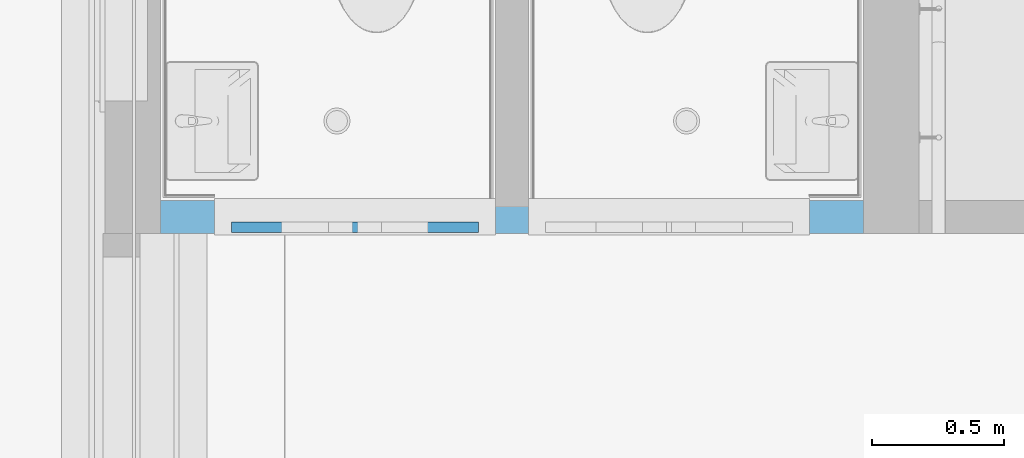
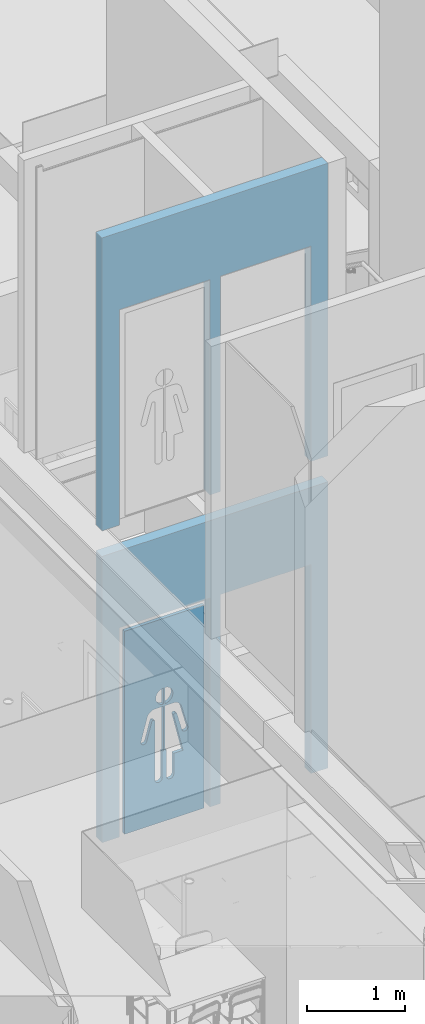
# One storey, part 55 of 347: 1 building element part, 4 openings, 1 element without a shape of its own, plus 1 element that does not belong to this part.
"""IFC2X3 building model written with IfcOpenShell, lengths in millimetres."""

from ifc_helpers import new_model, entity, si_unit, converted_unit, derived_unit, money_unit, direction, frame, origin_with_axes, place, context, subcontext, project, spatial, faceted_brep, source, transform, mapped, material, type_object, element, fill, aggregate, save


model = new_model("IFC2X3")

# Units and contexts
model_context = context("Model", 3, precision=0.01, world=origin_with_axes(), true_north=direction((0.0, 1.0)))
plan_context = context("Plan", 3, precision=0.01, world=origin_with_axes(), true_north=direction((0.0, 1.0)))
body_context = subcontext(model_context, "Body", "Model", "MODEL_VIEW")
ifc_project = project(units=[si_unit("LENGTHUNIT", "METRE", prefix="MILLI"), si_unit("AREAUNIT", "SQUARE_METRE"), si_unit("VOLUMEUNIT", "CUBIC_METRE"), converted_unit("PLANEANGLEUNIT", "DEGREE", entity("IfcPlaneAngleMeasure", 0.0174532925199), si_unit("PLANEANGLEUNIT", "RADIAN"), dimensions=[0, 0, 0, 0, 0, 0, 0]), money_unit("EUR"), converted_unit("TIMEUNIT", "Year", entity("IfcTimeMeasure", 31556926.0), si_unit("TIMEUNIT", "SECOND"), dimensions=[0, 0, 1, 0, 0, 0, 0]), si_unit("MASSUNIT", "GRAM", prefix="KILO"), si_unit("THERMODYNAMICTEMPERATUREUNIT", "DEGREE_CELSIUS"), si_unit("LUMINOUSINTENSITYUNIT", "LUMEN"), si_unit("ENERGYUNIT", "JOULE", prefix="MEGA"), derived_unit("THERMALCONDUCTANCEUNIT", [(si_unit("POWERUNIT", "WATT"), 1), (si_unit("LENGTHUNIT", "METRE"), -1), (si_unit("THERMODYNAMICTEMPERATUREUNIT", "KELVIN"), -1)]), derived_unit("SPECIFICHEATCAPACITYUNIT", [(si_unit("ENERGYUNIT", "JOULE"), 1), (si_unit("MASSUNIT", "GRAM", prefix="KILO"), -1), (si_unit("THERMODYNAMICTEMPERATUREUNIT", "KELVIN"), -1)]), derived_unit("MASSDENSITYUNIT", [(si_unit("MASSUNIT", "GRAM", prefix="KILO"), 1), (si_unit("VOLUMEUNIT", "CUBIC_METRE"), -1)])], contexts=[model_context, plan_context])

# Site, building, storey
site_placement = place(None, origin_with_axes())
site = spatial("IfcSite", under=ifc_project, at=site_placement, Name="Site", CompositionType="ELEMENT")
building_placement = place(site_placement, origin_with_axes())
building = spatial("IfcBuilding", under=site, at=building_placement, Name="Naam gebouw", CompositionType="ELEMENT")
storey_placement = place(building_placement, origin_with_axes())
storey = spatial("IfcBuildingStorey", under=building, at=storey_placement, Name="begane grond", CompositionType="ELEMENT", Elevation=0.0)

# Wall, openings, door, building element part
ifc_material_1 = material(Name="ALG - LICHTE SCHEIDINGSWAND")
wall_type = type_object("IfcWallType", Name="ALG LSW 125 125", PredefinedType="NOTDEFINED")
wall_placement = place(storey_placement, frame((35705.0, 30074.9999277, 0.0), z_axis=(0.0, 0.0, 1.0), x_axis=(1.0, 0.0, 0.0)))
wall = element("IfcWall", 1, at=wall_placement, inside=storey, type_object=wall_type, material=ifc_material_1, Name="22_GF 125 ECO DGS/2.75.2A", context=body_context, shape_type="Brep", body=[
    faceted_brep([(1392.5, 125.0, 2600.0), (1392.5, 125.0, 0.0), (1267.5, 125.0, 0.0), (1267.5, 125.0, 2600.0), (203.5, 125.0, 2600.0), (203.5, 125.0, 0.0), (0.0, 125.0, 0.0), (0.0, 125.0, 3560.0), (2660.0, 125.0, 3560.0), (2660.0, 125.0, 0.0), (2456.5, 125.0, 0.0), (2456.5, 125.0, 2600.0), (1392.5, 0.0, 2600.0), (1392.5, 0.0, 0.0), (1267.5, 0.0, 0.0), (1267.5, 0.0, 2600.0), (203.5, 0.0, 2600.0), (203.5, 0.0, 0.0), (0.0, 0.0, 0.0), (0.0, 0.0, 3560.0), (2660.0, 0.0, 3560.0), (2660.0, 0.0, 0.0), (2456.5, 0.0, 0.0), (2456.5, 0.0, 2600.0)], [[[0, 1, 2, 3, 4, 5, 6, 7, 8, 9, 10, 11]], [[1, 0, 12, 13]], [[1, 13, 14, 2]], [[2, 14, 15, 3]], [[3, 15, 16, 4]], [[4, 16, 17, 5]], [[17, 18, 6, 5]], [[7, 6, 18, 19]], [[8, 7, 19, 20]], [[20, 21, 9, 8]], [[22, 10, 9, 21]], [[11, 10, 22, 23]], [[0, 11, 23, 12]], [[23, 22, 21, 20, 19, 18, 17, 16, 15, 14, 13, 12]]]),
    faceted_brep([(203.5, 125.0, 6560.0), (203.5, 125.0, 3960.0), (203.5, 125.0, 3880.0), (0.0, 125.0, 3880.0), (0.0, 125.0, 7520.0), (2660.0, 125.0, 7520.0), (2660.0, 125.0, 3880.0), (2456.5, 125.0, 3880.0), (2456.5, 125.0, 3960.0), (2456.5, 125.0, 6560.0), (1392.5, 125.0, 6560.0), (1392.5, 125.0, 3960.0), (1392.5, 125.0, 3880.0), (1267.5, 125.0, 3880.0), (1267.5, 125.0, 3960.0), (1267.5, 125.0, 6560.0), (203.5, 0.0, 6560.0), (203.5, 0.0, 3960.0), (203.5, 0.0, 3880.0), (0.0, 0.0, 3880.0), (0.0, 0.0, 7520.0), (2660.0, 0.0, 7520.0), (2660.0, 0.0, 3880.0), (2456.5, 0.0, 3880.0), (2456.5, 0.0, 3960.0), (2456.5, 0.0, 6560.0), (1392.5, 0.0, 6560.0), (1392.5, 0.0, 3960.0), (1392.5, 0.0, 3880.0), (1267.5, 0.0, 3880.0), (1267.5, 0.0, 3960.0), (1267.5, 0.0, 6560.0)], [[[0, 1, 2, 3, 4, 5, 6, 7, 8, 9, 10, 11, 12, 13, 14, 15]], [[1, 0, 16, 17]], [[1, 17, 18, 2]], [[18, 19, 3, 2]], [[19, 20, 4, 3]], [[4, 20, 21, 5]], [[6, 5, 21, 22]], [[7, 6, 22, 23]], [[8, 7, 23, 24]], [[8, 24, 25, 9]], [[9, 25, 26, 10]], [[10, 26, 27, 11]], [[27, 28, 12, 11]], [[28, 29, 13, 12]], [[30, 14, 13, 29]], [[15, 14, 30, 31]], [[0, 15, 31, 16]], [[31, 30, 29, 28, 27, 26, 25, 24, 23, 22, 21, 20, 19, 18, 17, 16]]]),
])
opening_1_placement = place(wall_placement, frame((735.5, 0.0, 0.0), z_axis=(0.0, 0.0, 1.0), x_axis=(1.0, 0.0, 0.0)))
opening_1 = element("IfcOpeningElement", 2, at=opening_1_placement, cuts=wall, Name="32_02.05", context=body_context, shape_type="Brep", body=[
    faceted_brep([(-532.0, 125.0, 2600.0), (-532.0, 125.0, 0.0), (-532.0, -257.0, 0.0), (-532.0, -257.0, 2600.0), (532.0, 125.0, 2600.0), (532.0, 125.0, 0.0), (532.0, -257.0, 0.0), (532.0, -257.0, 2600.0)], [[[0, 1, 2, 3]], [[0, 4, 5, 1]], [[1, 5, 6, 2]], [[3, 2, 6, 7]], [[4, 0, 3, 7]], [[5, 4, 7, 6]]]),
])
opening_2_placement = place(wall_placement, frame((1924.5, 0.0, 0.0), z_axis=(0.0, 0.0, 1.0), x_axis=(1.0, 0.0, 0.0)))
element("IfcOpeningElement", 3, at=opening_2_placement, cuts=wall, Name="32_02.05", context=body_context, shape_type="Brep", body=[
    faceted_brep([(-532.0, 125.0, 2600.0), (-532.0, 125.0, 0.0), (-532.0, -257.0, 0.0), (-532.0, -257.0, 2600.0), (532.0, 125.0, 2600.0), (532.0, 125.0, 0.0), (532.0, -257.0, 0.0), (532.0, -257.0, 2600.0)], [[[0, 1, 2, 3]], [[0, 4, 5, 1]], [[1, 5, 6, 2]], [[3, 2, 6, 7]], [[4, 0, 3, 7]], [[5, 4, 7, 6]]]),
])
opening_3_placement = place(wall_placement, frame((1924.5, 0.0, 3960.0), z_axis=(0.0, 0.0, 1.0), x_axis=(1.0, 0.0, 0.0)))
element("IfcOpeningElement", 4, at=opening_3_placement, cuts=wall, Name="32_02.05", context=body_context, shape_type="Brep", body=[
    faceted_brep([(-532.0, -125.0, 0.0), (-532.0, -125.0, 2600.0), (-532.0, 257.0, 2600.0), (-532.0, 257.0, 0.0), (532.0, -125.0, 0.0), (532.0, -125.0, 2600.0), (532.0, 257.0, 2600.0), (532.0, 257.0, 0.0)], [[[0, 1, 2, 3]], [[0, 4, 5, 1]], [[1, 5, 6, 2]], [[3, 2, 6, 7]], [[4, 0, 3, 7]], [[5, 4, 7, 6]]]),
])
opening_4_placement = place(wall_placement, frame((735.5, 0.0, 3960.0), z_axis=(0.0, 0.0, 1.0), x_axis=(1.0, 0.0, 0.0)))
element("IfcOpeningElement", 5, at=opening_4_placement, cuts=wall, Name="32_02.05", context=body_context, shape_type="Brep", body=[
    faceted_brep([(-532.0, -125.0, 0.0), (-532.0, -125.0, 2600.0), (-532.0, 257.0, 2600.0), (-532.0, 257.0, 0.0), (532.0, -125.0, 0.0), (532.0, -125.0, 2600.0), (532.0, 257.0, 2600.0), (532.0, 257.0, 0.0)], [[[0, 1, 2, 3]], [[0, 4, 5, 1]], [[1, 5, 6, 2]], [[3, 2, 6, 7]], [[4, 0, 3, 7]], [[5, 4, 7, 6]]]),
])
door_style = type_object("IfcDoorStyle", Name="D1 25", ConstructionType="NOTDEFINED", OperationType="SINGLE_SWING_RIGHT", ParameterTakesPrecedence=False, Sizeable=False)
door_placement = place(opening_1_placement, frame((532.0, 0.0, 0.0), z_axis=(0.0, 0.0, 1.0), x_axis=(-1.0, 0.0, 0.0)))
door = element("IfcDoor", 6, at=door_placement, inside=storey, type_object=door_style, Name="32_02.05", ObjectType="DOOR", OverallHeight=2600.0, OverallWidth=1064.0)
fill(opening_1, door)
ifc_material_2 = material(Name="Hout C")
shared_shape = source(origin_with_axes(), body_context, "Body", "Brep", [
    faceted_brep([(467.0, -10.0, 2535.0), (467.0, -50.0, 2535.0), (467.0, -50.0, 10.0), (467.0, -10.0, 10.0), (-467.0, -10.0, 2535.0), (-467.0, -50.0, 2535.0), (-467.0, -50.0, 10.0), (-10.0430200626, -50.0, 890.229090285), (-25.1075218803, -50.0, 890.229090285), (-25.1075218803, -50.0, 563.286854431), (-24.6932816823, -50.0, 559.546364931), (-25.1742831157, -50.0, 552.034934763), (-26.9501513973, -50.0, 544.721284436), (-29.9669276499, -50.0, 537.827635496), (-34.1329486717, -50.0, 531.563447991), (-39.3216320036, -50.0, 526.119056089), (-45.3753221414, -50.0, 521.659884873), (-52.1100807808, -50.0, 518.321424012), (-59.3212756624, -50.0, 516.205110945), (-66.7897983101, -50.0, 515.375248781), (-74.2887214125, -50.0, 515.857052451), (-81.5901940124, -50.0, 517.635882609), (-88.4723645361, -50.0, 520.657690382), (-94.7261217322, -50.0, 524.830659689), (-100.161448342, -50.0, 530.027996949), (-104.613194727, -50.0, 536.091783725), (-107.946096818, -50.0, 542.8377749), (-110.058886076, -50.0, 550.06099695), (-110.887366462, -50.0, 557.54197595), (-110.473126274, -50.0, 563.286854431), (-110.473126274, -50.0, 814.780876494), (-219.866038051, -50.0, 814.780876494), (-108.013455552, -50.0, 1292.61952191), (-108.785274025, -50.0, 1296.47224326), (-110.199691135, -50.0, 1299.82482097), (-112.173819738, -50.0, 1302.8804449), (-114.647676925, -50.0, 1305.54627145), (-117.546095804, -50.0, 1307.74130085), (-120.781009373, -50.0, 1309.39883823), (-124.254126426, -50.0, 1310.46852015), (-127.859918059, -50.0, 1310.91784487), (-131.488824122, -50.0, 1310.73315989), (-135.030582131, -50.0, 1309.92007677), (-138.377577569, -50.0, 1308.50330061), (-141.428113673, -50.0, 1306.52587948), (-144.089501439, -50.0, 1304.04789628), (-146.280875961, -50.0, 1301.14464328), (-147.935653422, -50.0, 1297.90433437), (-149.003554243, -50.0, 1294.42542469), (-149.227842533, -50.0, 1292.61952191), (-207.923578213, -50.0, 1073.19870027), (-208.719139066, -50.0, 1070.22315824), (-211.317762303, -50.0, 1064.63924071), (-214.844929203, -50.0, 1059.59215425), (-219.193468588, -50.0, 1055.235252), (-224.231252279, -50.0, 1051.70091623), (-229.805209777, -50.0, 1049.09653598), (-235.745979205, -50.0, 1047.50124399), (-241.873053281, -50.0, 1046.96351241), (-248.000263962, -50.0, 1047.49967995), (-253.941439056, -50.0, 1049.09345542), (-259.516058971, -50.0, 1051.69641276), (-264.554741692, -50.0, 1055.22946244), (-268.904389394, -50.0, 1059.58525451), (-272.432840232, -50.0, 1064.63144045), (-275.032884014, -50.0, 1070.21469446), (-276.625519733, -50.0, 1076.16537218), (-277.162355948, -50.0, 1082.30266527), (-276.62708117, -50.0, 1088.44009521), (-275.831520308, -50.0, 1091.41563724), (-201.58891637, -50.0, 1368.954906), (-199.31480372, -50.0, 1377.45616444), (-191.888136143, -50.0, 1393.40926659), (-181.808681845, -50.0, 1407.82822709), (-169.382699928, -50.0, 1420.27493311), (-154.98774758, -50.0, 1430.37119778), (-139.061208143, -50.0, 1437.81025123), (-122.087001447, -50.0, 1442.36606156), (-104.580882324, -50.0, 1443.51593625), (-10.0430200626, -50.0, 1443.51593625), (-10.0430200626, -50.0, 1669.35630499), (-10.0430200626, -50.0, 1469.16959144), (-18.7854730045, -50.0, 1470.04970729), (-35.6995917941, -50.0, 1474.82448312), (-51.5289965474, -50.0, 1482.46872393), (-65.7927188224, -50.0, 1492.75016333), (-78.0573626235, -50.0, 1505.35640498), (-87.9502729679, -50.0, 1519.90441461), (-95.1708587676, -50.0, 1535.9521583), (-99.4997261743, -50.0, 1553.01203348), (-100.430107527, -50.0, 1569.26294821), (-100.430107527, -50.0, 1578.06409863), (-97.3785895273, -50.0, 1595.39898096), (-91.368272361, -50.0, 1611.93973315), (-82.5817764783, -50.0, 1627.18377283), (-71.2860751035, -50.0, 1640.66791757), (-57.8243824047, -50.0, 1651.98245845), (-42.6057251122, -50.0, 1660.78360886), (-26.0925144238, -50.0, 1666.80395031), (10.0430200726, -50.0, 1669.35630499), (18.7854730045, -50.0, 1668.47618914), (35.6995917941, -50.0, 1663.7014133), (51.5289965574, -50.0, 1656.05717249), (65.7927188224, -50.0, 1645.77573309), (78.0573626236, -50.0, 1633.16949145), (87.9502729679, -50.0, 1618.62148182), (95.1708587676, -50.0, 1602.57373813), (99.4997261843, -50.0, 1585.51386294), (100.430107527, -50.0, 1569.26294821), (100.430107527, -50.0, 1560.4617978), (97.3785895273, -50.0, 1543.12691547), (91.368272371, -50.0, 1526.58616327), (82.5817764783, -50.0, 1511.34212359), (71.2860751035, -50.0, 1497.85797885), (57.8243824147, -50.0, 1486.54343798), (42.6057251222, -50.0, 1477.74228756), (26.0925144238, -50.0, 1471.72194611), (10.0430200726, -50.0, 1469.16959144), (276.62552127, -50.0, 1088.44895872), (277.162357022, -50.0, 1082.31166558), (276.627081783, -50.0, 1076.17423568), (275.035959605, -50.0, 1070.22315174), (272.437335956, -50.0, 1064.63923441), (268.910168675, -50.0, 1059.59214821), (264.561628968, -50.0, 1055.23524628), (259.523845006, -50.0, 1051.70091091), (253.949887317, -50.0, 1049.09653107), (248.009117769, -50.0, 1047.50123953), (241.882043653, -50.0, 1046.96350842), (235.754833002, -50.0, 1047.49967641), (229.813658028, -50.0, 1049.09345233), (224.239038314, -50.0, 1051.6964101), (219.200355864, -50.0, 1055.22946015), (214.850708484, -50.0, 1059.58525256), (211.322258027, -50.0, 1064.63143877), (208.722214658, -50.0, 1070.21469297), (207.923578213, -50.0, 1073.19870026), (149.011836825, -50.0, 1292.61952191), (148.349375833, -50.0, 1295.95494878), (147.047948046, -50.0, 1299.10211348), (145.220702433, -50.0, 1301.97509819), (142.923158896, -50.0, 1304.48660874), (140.225127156, -50.0, 1306.56033414), (137.208585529, -50.0, 1308.13326528), (133.965190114, -50.0, 1309.15760948), (130.593489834, -50.0, 1309.60224253), (127.195932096, -50.0, 1309.45365449), (123.875749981, -50.0, 1308.71636013), (120.733825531, -50.0, 1307.41276178), (117.865624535, -50.0, 1305.58246859), (115.358295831, -50.0, 1303.2810931), (113.288023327, -50.0, 1300.57856146), (111.717711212, -50.0, 1297.5569887), (110.695072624, -50.0, 1294.3081838), (110.473126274, -50.0, 1292.61952191), (110.473126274, -50.0, 563.286854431), (110.887366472, -50.0, 559.546364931), (110.406365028, -50.0, 552.034934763), (108.630496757, -50.0, 544.721284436), (105.613720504, -50.0, 537.827635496), (101.447699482, -50.0, 531.563447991), (96.2590161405, -50.0, 526.119056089), (90.2053260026, -50.0, 521.659884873), (83.4705673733, -50.0, 518.321424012), (76.2593724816, -50.0, 516.205110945), (68.790849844, -50.0, 515.375248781), (61.2919267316, -50.0, 515.857052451), (53.9904541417, -50.0, 517.635882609), (47.1082836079, -50.0, 520.657690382), (40.8545264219, -50.0, 524.830659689), (35.4191998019, -50.0, 530.027996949), (30.9674534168, -50.0, 536.091783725), (27.6345513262, -50.0, 542.8377749), (25.5217620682, -50.0, 550.06099695), (24.6932816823, -50.0, 557.54197595), (25.1075218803, -50.0, 563.286854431), (25.1075218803, -50.0, 890.229090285), (10.0430200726, -50.0, 890.229090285), (10.0430200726, -50.0, 1443.51593625), (104.580882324, -50.0, 1443.51593625), (113.367378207, -50.0, 1443.51593625), (130.673396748, -50.0, 1440.4593288), (147.186607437, -50.0, 1434.43898735), (162.405264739, -50.0, 1425.63783693), (175.866957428, -50.0, 1414.32329606), (187.162658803, -50.0, 1400.83915132), (195.949154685, -50.0, 1385.59511164), (201.58891637, -50.0, 1368.954906), (-467.0, -10.0, 10.0), (-10.0430200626, -10.0, 890.229090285), (-10.0430200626, -10.0, 1443.51593625), (-104.580882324, -10.0, 1443.51593625), (-122.087001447, -10.0, 1442.36606156), (-139.061208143, -10.0, 1437.81025123), (-154.98774758, -10.0, 1430.37119778), (-169.382699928, -10.0, 1420.27493311), (-181.808681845, -10.0, 1407.82822709), (-191.888136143, -10.0, 1393.40926659), (-199.31480372, -10.0, 1377.45616444), (-201.58891637, -10.0, 1368.954906), (-275.831520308, -10.0, 1091.41563724), (-276.62708117, -10.0, 1088.44009521), (-277.162355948, -10.0, 1082.30266527), (-276.625519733, -10.0, 1076.16537218), (-275.032884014, -10.0, 1070.21469446), (-272.432840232, -10.0, 1064.63144045), (-268.904389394, -10.0, 1059.58525451), (-264.554741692, -10.0, 1055.22946244), (-259.516058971, -10.0, 1051.69641276), (-253.941439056, -10.0, 1049.09345542), (-248.000263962, -10.0, 1047.49967995), (-241.873053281, -10.0, 1046.96351241), (-235.745979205, -10.0, 1047.50124399), (-229.805209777, -10.0, 1049.09653598), (-224.231252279, -10.0, 1051.70091623), (-219.193468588, -10.0, 1055.235252), (-214.844929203, -10.0, 1059.59215425), (-211.317762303, -10.0, 1064.63924071), (-208.719139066, -10.0, 1070.22315824), (-207.923578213, -10.0, 1073.19870027), (-149.227842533, -10.0, 1292.61952191), (-149.003554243, -10.0, 1294.42542469), (-147.935653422, -10.0, 1297.90433437), (-146.280875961, -10.0, 1301.14464328), (-144.089501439, -10.0, 1304.04789628), (-141.428113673, -10.0, 1306.52587948), (-138.377577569, -10.0, 1308.50330061), (-135.030582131, -10.0, 1309.92007677), (-131.488824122, -10.0, 1310.73315989), (-127.859918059, -10.0, 1310.91784487), (-124.254126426, -10.0, 1310.46852015), (-120.781009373, -10.0, 1309.39883823), (-117.546095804, -10.0, 1307.74130085), (-114.647676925, -10.0, 1305.54627145), (-112.173819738, -10.0, 1302.8804449), (-110.199691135, -10.0, 1299.82482097), (-108.785274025, -10.0, 1296.47224326), (-108.013455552, -10.0, 1292.61952191), (-219.866038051, -10.0, 814.780876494), (-110.473126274, -10.0, 814.780876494), (-110.473126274, -10.0, 563.286854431), (-110.887366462, -10.0, 557.54197595), (-110.058886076, -10.0, 550.06099695), (-107.946096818, -10.0, 542.8377749), (-104.613194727, -10.0, 536.091783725), (-100.161448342, -10.0, 530.027996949), (-94.7261217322, -10.0, 524.830659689), (-88.4723645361, -10.0, 520.657690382), (-81.5901940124, -10.0, 517.635882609), (-74.2887214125, -10.0, 515.857052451), (-66.7897983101, -10.0, 515.375248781), (-59.3212756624, -10.0, 516.205110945), (-52.1100807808, -10.0, 518.321424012), (-45.3753221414, -10.0, 521.659884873), (-39.3216320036, -10.0, 526.119056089), (-34.1329486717, -10.0, 531.563447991), (-29.9669276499, -10.0, 537.827635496), (-26.9501513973, -10.0, 544.721284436), (-25.1742831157, -10.0, 552.034934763), (-24.6932816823, -10.0, 559.546364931), (-25.1075218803, -10.0, 563.286854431), (-25.1075218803, -10.0, 890.229090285), (-10.0430200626, -10.0, 1669.35630499), (-26.0925144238, -10.0, 1666.80395031), (-42.6057251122, -10.0, 1660.78360886), (-57.8243824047, -10.0, 1651.98245845), (-71.2860751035, -10.0, 1640.66791757), (-82.5817764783, -10.0, 1627.18377283), (-91.368272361, -10.0, 1611.93973315), (-97.3785895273, -10.0, 1595.39898096), (-100.430107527, -10.0, 1578.06409863), (-100.430107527, -10.0, 1569.26294821), (-99.4997261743, -10.0, 1553.01203348), (-95.1708587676, -10.0, 1535.9521583), (-87.9502729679, -10.0, 1519.90441461), (-78.0573626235, -10.0, 1505.35640498), (-65.7927188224, -10.0, 1492.75016333), (-51.5289965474, -10.0, 1482.46872393), (-35.6995917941, -10.0, 1474.82448312), (-18.7854730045, -10.0, 1470.04970729), (-10.0430200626, -10.0, 1469.16959144), (10.0430200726, -10.0, 1669.35630499), (10.0430200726, -10.0, 1469.16959144), (26.0925144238, -10.0, 1471.72194611), (42.6057251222, -10.0, 1477.74228756), (57.8243824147, -10.0, 1486.54343798), (71.2860751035, -10.0, 1497.85797885), (82.5817764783, -10.0, 1511.34212359), (91.368272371, -10.0, 1526.58616327), (97.3785895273, -10.0, 1543.12691547), (100.430107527, -10.0, 1560.4617978), (100.430107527, -10.0, 1569.26294821), (99.4997261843, -10.0, 1585.51386294), (95.1708587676, -10.0, 1602.57373813), (87.9502729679, -10.0, 1618.62148182), (78.0573626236, -10.0, 1633.16949145), (65.7927188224, -10.0, 1645.77573309), (51.5289965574, -10.0, 1656.05717249), (35.6995917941, -10.0, 1663.7014133), (18.7854730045, -10.0, 1668.47618914), (276.62552127, -10.0, 1088.44895872), (201.58891637, -10.0, 1368.954906), (195.949154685, -10.0, 1385.59511164), (187.162658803, -10.0, 1400.83915132), (175.866957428, -10.0, 1414.32329606), (162.405264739, -10.0, 1425.63783693), (147.186607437, -10.0, 1434.43898735), (130.673396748, -10.0, 1440.4593288), (113.367378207, -10.0, 1443.51593625), (104.580882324, -10.0, 1443.51593625), (10.0430200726, -10.0, 1443.51593625), (10.0430200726, -10.0, 890.229090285), (25.1075218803, -10.0, 890.229090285), (25.1075218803, -10.0, 563.286854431), (24.6932816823, -10.0, 557.54197595), (25.5217620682, -10.0, 550.06099695), (27.6345513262, -10.0, 542.8377749), (30.9674534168, -10.0, 536.091783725), (35.4191998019, -10.0, 530.027996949), (40.8545264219, -10.0, 524.830659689), (47.1082836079, -10.0, 520.657690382), (53.9904541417, -10.0, 517.635882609), (61.2919267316, -10.0, 515.857052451), (68.790849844, -10.0, 515.375248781), (76.2593724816, -10.0, 516.205110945), (83.4705673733, -10.0, 518.321424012), (90.2053260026, -10.0, 521.659884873), (96.2590161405, -10.0, 526.119056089), (101.447699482, -10.0, 531.563447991), (105.613720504, -10.0, 537.827635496), (108.630496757, -10.0, 544.721284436), (110.406365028, -10.0, 552.034934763), (110.887366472, -10.0, 559.546364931), (110.473126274, -10.0, 563.286854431), (110.473126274, -10.0, 1292.61952191), (110.695072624, -10.0, 1294.3081838), (111.717711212, -10.0, 1297.5569887), (113.288023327, -10.0, 1300.57856146), (115.358295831, -10.0, 1303.2810931), (117.865624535, -10.0, 1305.58246859), (120.733825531, -10.0, 1307.41276178), (123.875749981, -10.0, 1308.71636013), (127.195932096, -10.0, 1309.45365449), (130.593489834, -10.0, 1309.60224253), (133.965190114, -10.0, 1309.15760948), (137.208585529, -10.0, 1308.13326528), (140.225127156, -10.0, 1306.56033414), (142.923158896, -10.0, 1304.48660874), (145.220702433, -10.0, 1301.97509819), (147.047948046, -10.0, 1299.10211348), (148.349375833, -10.0, 1295.95494878), (149.011836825, -10.0, 1292.61952191), (207.923578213, -10.0, 1073.19870026), (208.722214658, -10.0, 1070.21469297), (211.322258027, -10.0, 1064.63143877), (214.850708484, -10.0, 1059.58525256), (219.200355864, -10.0, 1055.22946015), (224.239038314, -10.0, 1051.6964101), (229.813658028, -10.0, 1049.09345233), (235.754833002, -10.0, 1047.49967641), (241.882043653, -10.0, 1046.96350842), (248.009117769, -10.0, 1047.50123953), (253.949887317, -10.0, 1049.09653107), (259.523845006, -10.0, 1051.70091091), (264.561628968, -10.0, 1055.23524628), (268.910168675, -10.0, 1059.59214821), (272.437335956, -10.0, 1064.63923441), (275.035959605, -10.0, 1070.22315174), (276.627081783, -10.0, 1076.17423568), (277.162357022, -10.0, 1082.31166558)], [[[0, 1, 2, 3]], [[4, 5, 1, 0]], [[1, 5, 6, 2], [7, 8, 9, 10, 11, 12, 13, 14, 15, 16, 17, 18, 19, 20, 21, 22, 23, 24, 25, 26, 27, 28, 29, 30, 31, 32, 33, 34, 35, 36, 37, 38, 39, 40, 41, 42, 43, 44, 45, 46, 47, 48, 49, 50, 51, 52, 53, 54, 55, 56, 57, 58, 59, 60, 61, 62, 63, 64, 65, 66, 67, 68, 69, 70, 71, 72, 73, 74, 75, 76, 77, 78, 79], [80, 81, 82, 83, 84, 85, 86, 87, 88, 89, 90, 91, 92, 93, 94, 95, 96, 97, 98], [99, 100, 101, 102, 103, 104, 105, 106, 107, 108, 109, 110, 111, 112, 113, 114, 115, 116, 117], [118, 119, 120, 121, 122, 123, 124, 125, 126, 127, 128, 129, 130, 131, 132, 133, 134, 135, 136, 137, 138, 139, 140, 141, 142, 143, 144, 145, 146, 147, 148, 149, 150, 151, 152, 153, 154, 155, 156, 157, 158, 159, 160, 161, 162, 163, 164, 165, 166, 167, 168, 169, 170, 171, 172, 173, 174, 175, 176, 177, 178, 179, 180, 181, 182, 183, 184, 185, 186, 187]], [[3, 2, 6, 188]], [[0, 3, 188, 4], [189, 190, 191, 192, 193, 194, 195, 196, 197, 198, 199, 200, 201, 202, 203, 204, 205, 206, 207, 208, 209, 210, 211, 212, 213, 214, 215, 216, 217, 218, 219, 220, 221, 222, 223, 224, 225, 226, 227, 228, 229, 230, 231, 232, 233, 234, 235, 236, 237, 238, 239, 240, 241, 242, 243, 244, 245, 246, 247, 248, 249, 250, 251, 252, 253, 254, 255, 256, 257, 258, 259, 260, 261], [262, 263, 264, 265, 266, 267, 268, 269, 270, 271, 272, 273, 274, 275, 276, 277, 278, 279, 280], [281, 282, 283, 284, 285, 286, 287, 288, 289, 290, 291, 292, 293, 294, 295, 296, 297, 298, 299], [300, 301, 302, 303, 304, 305, 306, 307, 308, 309, 310, 311, 312, 313, 314, 315, 316, 317, 318, 319, 320, 321, 322, 323, 324, 325, 326, 327, 328, 329, 330, 331, 332, 333, 334, 335, 336, 337, 338, 339, 340, 341, 342, 343, 344, 345, 346, 347, 348, 349, 350, 351, 352, 353, 354, 355, 356, 357, 358, 359, 360, 361, 362, 363, 364, 365, 366, 367, 368, 369]], [[188, 6, 5, 4]], [[261, 8, 7, 189]], [[260, 9, 8, 261]], [[259, 10, 9, 260]], [[258, 11, 10, 259]], [[257, 12, 11, 258]], [[256, 13, 12, 257]], [[255, 14, 13, 256]], [[254, 15, 14, 255]], [[253, 16, 15, 254]], [[252, 17, 16, 253]], [[251, 18, 17, 252]], [[250, 19, 18, 251]], [[249, 20, 19, 250]], [[248, 21, 20, 249]], [[247, 22, 21, 248]], [[246, 23, 22, 247]], [[245, 24, 23, 246]], [[244, 25, 24, 245]], [[243, 26, 25, 244]], [[242, 27, 26, 243]], [[241, 28, 27, 242]], [[240, 29, 28, 241]], [[239, 30, 29, 240]], [[238, 31, 30, 239]], [[237, 32, 31, 238]], [[236, 33, 32, 237]], [[235, 34, 33, 236]], [[234, 35, 34, 235]], [[233, 36, 35, 234]], [[232, 37, 36, 233]], [[231, 38, 37, 232]], [[230, 39, 38, 231]], [[229, 40, 39, 230]], [[228, 41, 40, 229]], [[227, 42, 41, 228]], [[226, 43, 42, 227]], [[225, 44, 43, 226]], [[224, 45, 44, 225]], [[223, 46, 45, 224]], [[222, 47, 46, 223]], [[221, 48, 47, 222]], [[220, 49, 48, 221]], [[219, 50, 49, 220]], [[218, 51, 50, 219]], [[217, 52, 51, 218]], [[216, 53, 52, 217]], [[215, 54, 53, 216]], [[214, 55, 54, 215]], [[213, 56, 55, 214]], [[212, 57, 56, 213]], [[211, 58, 57, 212]], [[210, 59, 58, 211]], [[209, 60, 59, 210]], [[208, 61, 60, 209]], [[207, 62, 61, 208]], [[206, 63, 62, 207]], [[205, 64, 63, 206]], [[204, 65, 64, 205]], [[203, 66, 65, 204]], [[202, 67, 66, 203]], [[201, 68, 67, 202]], [[200, 69, 68, 201]], [[199, 70, 69, 200]], [[198, 71, 70, 199]], [[197, 72, 71, 198]], [[196, 73, 72, 197]], [[195, 74, 73, 196]], [[194, 75, 74, 195]], [[193, 76, 75, 194]], [[192, 77, 76, 193]], [[191, 78, 77, 192]], [[190, 79, 78, 191]], [[189, 7, 79, 190]], [[280, 81, 80, 262]], [[279, 82, 81, 280]], [[278, 83, 82, 279]], [[277, 84, 83, 278]], [[276, 85, 84, 277]], [[275, 86, 85, 276]], [[274, 87, 86, 275]], [[273, 88, 87, 274]], [[272, 89, 88, 273]], [[271, 90, 89, 272]], [[270, 91, 90, 271]], [[269, 92, 91, 270]], [[268, 93, 92, 269]], [[267, 94, 93, 268]], [[266, 95, 94, 267]], [[265, 96, 95, 266]], [[264, 97, 96, 265]], [[263, 98, 97, 264]], [[262, 80, 98, 263]], [[299, 100, 99, 281]], [[298, 101, 100, 299]], [[297, 102, 101, 298]], [[296, 103, 102, 297]], [[295, 104, 103, 296]], [[294, 105, 104, 295]], [[293, 106, 105, 294]], [[292, 107, 106, 293]], [[291, 108, 107, 292]], [[290, 109, 108, 291]], [[289, 110, 109, 290]], [[288, 111, 110, 289]], [[287, 112, 111, 288]], [[286, 113, 112, 287]], [[285, 114, 113, 286]], [[284, 115, 114, 285]], [[283, 116, 115, 284]], [[282, 117, 116, 283]], [[281, 99, 117, 282]], [[369, 119, 118, 300]], [[368, 120, 119, 369]], [[367, 121, 120, 368]], [[366, 122, 121, 367]], [[365, 123, 122, 366]], [[364, 124, 123, 365]], [[363, 125, 124, 364]], [[362, 126, 125, 363]], [[361, 127, 126, 362]], [[360, 128, 127, 361]], [[359, 129, 128, 360]], [[358, 130, 129, 359]], [[357, 131, 130, 358]], [[356, 132, 131, 357]], [[355, 133, 132, 356]], [[354, 134, 133, 355]], [[353, 135, 134, 354]], [[352, 136, 135, 353]], [[351, 137, 136, 352]], [[350, 138, 137, 351]], [[349, 139, 138, 350]], [[348, 140, 139, 349]], [[347, 141, 140, 348]], [[346, 142, 141, 347]], [[345, 143, 142, 346]], [[344, 144, 143, 345]], [[343, 145, 144, 344]], [[342, 146, 145, 343]], [[341, 147, 146, 342]], [[340, 148, 147, 341]], [[339, 149, 148, 340]], [[338, 150, 149, 339]], [[337, 151, 150, 338]], [[336, 152, 151, 337]], [[335, 153, 152, 336]], [[334, 154, 153, 335]], [[333, 155, 154, 334]], [[332, 156, 155, 333]], [[331, 157, 156, 332]], [[330, 158, 157, 331]], [[329, 159, 158, 330]], [[328, 160, 159, 329]], [[327, 161, 160, 328]], [[326, 162, 161, 327]], [[325, 163, 162, 326]], [[324, 164, 163, 325]], [[323, 165, 164, 324]], [[322, 166, 165, 323]], [[321, 167, 166, 322]], [[320, 168, 167, 321]], [[319, 169, 168, 320]], [[318, 170, 169, 319]], [[317, 171, 170, 318]], [[316, 172, 171, 317]], [[315, 173, 172, 316]], [[314, 174, 173, 315]], [[313, 175, 174, 314]], [[312, 176, 175, 313]], [[311, 177, 176, 312]], [[310, 178, 177, 311]], [[309, 179, 178, 310]], [[308, 180, 179, 309]], [[307, 181, 180, 308]], [[306, 182, 181, 307]], [[305, 183, 182, 306]], [[304, 184, 183, 305]], [[303, 185, 184, 304]], [[302, 186, 185, 303]], [[301, 187, 186, 302]], [[300, 118, 187, 301]]]),
])
building_element_part_placement = place(door_placement, origin_with_axes())
building_element_part = element("IfcBuildingElementPart", 7, at=building_element_part_placement, material=ifc_material_2, Name="Hout C", context=body_context, shape_type="MappedRepresentation", body=[
    mapped(shared_shape, transform((532.0, 7.0, 0.0))),
])
aggregate(door, [building_element_part])

save(model, "model.ifc")
